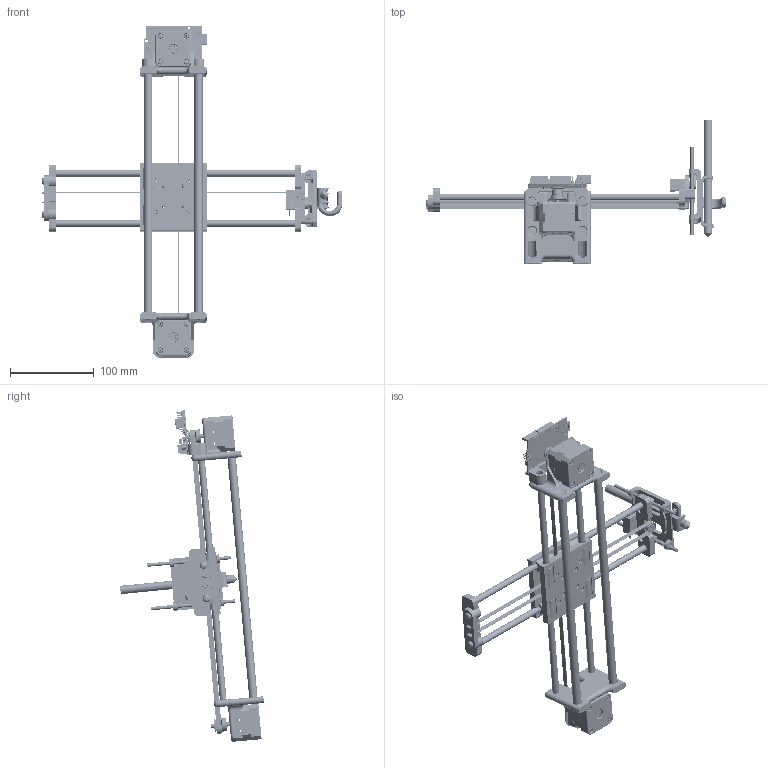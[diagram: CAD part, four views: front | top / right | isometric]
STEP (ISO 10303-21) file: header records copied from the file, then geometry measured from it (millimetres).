
FILE_DESCRIPTION( ( '' ), ' ' );
FILE_NAME( '/vol/tmp/translate-5376966259997972879/57de4603fc353e10de8b49f6.step', '2016-09-18T07:45:11', ( '' ), ( '' ), ' ', ' ', ' ' );
FILE_SCHEMA( ( 'AUTOMOTIVE_DESIGN { 1 0 10303 214 1 1 1 1 }' ) );
Length unit declared in the file: metre
Products named in the file (133): Pulley <1>; Part 1; USB type b.SLDPRT <1>; USB SHELL; USB core; usb top contact; usb btm contact; Pulley <2>; dip28 <1>; dip28; dip socket pin; RESET BUTTON <1>; RESET CORE; RESET; Pulley <3>; Pulley <4>; newCarriage <1>; base; Belt; base with nuts; belt tensioner <1>; EndY2; tensor; NEMA 17 with T5 Pulley <1>; Base; Cuerpo; Tapa; pan cross head_am_B18.6.7M - M3 x 0.5 x 5 Type I Cross Recessed PHMS --5N; Eje; instrument ball bearing_68_am_AFBMA 12.1.4.1 - 0050-11 - 10,SI,NC,10_68; socket button head cap screw_am_B18.3.4M - 3 x 0.5 x 5 SBHCS --N; T5 Pulley; NEMA 17 with T5 Pulley <2>; arduino uno <1>; unoboard blue; 47uf CAP Dcase; power jack; crystal; 2pin_header__02; nano - reg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
Assembly tree (239 placements, depth 4):
  Assem1
    Arduino grip
    EndY
    Pen Carriage
    servoHolder
    newEndX  x2
    Part 1  x4
    Part 2  x2
    miniRod  x2
    Pen Holder
    Pen
    spring
    newCarriage <1>
      base
      Belt
      base with nuts
      Part 1  x8
      Pulley <1>
        Part 1  x2
      Pulley <2>
        Part 1  x2
      Pulley <3>
        Part 1  x2
      Pulley <4>
        Part 1  x2
    servo9g <1>
      Part 1
      Part 2
      Part 1
    Pulley <1>
      Part 1  x2
    NEMA 17 with T5 Pulley <1>
      Base
      Cuerpo
      Tapa
      pan cross head_am_B18.6.7M - M3 x 0.5 x 5 Type I Cross Recessed PHMS --5N  x4
      Eje
      instrument ball bearing_68_am_AFBMA 12.1.4.1 - 0050-11 - 10,SI,NC,10_68  x2
      socket button head cap screw_am_B18.3.4M - 3 x 0.5 x 5 SBHCS --N
      T5 Pulley
    NEMA 17 with T5 Pulley <2>
      Base
      Cuerpo
      Tapa
      pan cross head_am_B18.6.7M - M3 x 0.5 x 5 Type I Cross Recessed PHMS --5N  x4
      Eje
      instrument ball bearing_68_am_AFBMA 12.1.4.1 - 0050-11 - 10,SI,NC,10_68  x2
      socket button head cap screw_am_B18.3.4M - 3 x 0.5 x 5 SBHCS --N
      T5 Pulley
    arduino uno <1>
      unoboard blue
      47uf CAP Dcase  x2
      47uf CAP Dcase  x2
      power jack
      power jack
      crystal
      2pin_header__02  x6
      nano - reg
      led  x4
      led  x4
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Bounding box: 358.48 x 171.47 x 395.44 mm (x, y, z)
Volume: 502501.6 mm3; surface area: 258425.5 mm2
Topology: 225 solids, 225 shells, 9906 faces, 25655 edges, 16602 vertices
Faces by surface type: plane 6046, cylinder 2205, bspline 982, torus 492, cone 123, sphere 58
Full cylindrical faces by diameter (mm): 0.3 x1, 0.4 x1, 0.5 x35, 0.6 x29, 0.8 x82, 1 x20, 1.35 x56, 1.7 x56, 1.8 x1, 1.95 x4, 2 x10, 2.49 x1, 2.5 x4, 2.54 x2, 2.656 x1, 2.791 x1, 2.8 x4, 3 x59, 3.1 x1, 3.175 x4, 3.2 x9, 3.261 x1, 3.6 x3, 3.8 x2, 4 x4, 4.2 x2, 4.288 x2, 4.6 x1, 4.7 x1, 4.75 x1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
Entity records: 266910 total; most frequent: CARTESIAN_POINT 74099, ORIENTED_EDGE 38798, DIRECTION 33963, EDGE_CURVE 19399, LINE 13593, VECTOR 13593, VERTEX_POINT 12923, AXIS2_PLACEMENT_3D 10185
